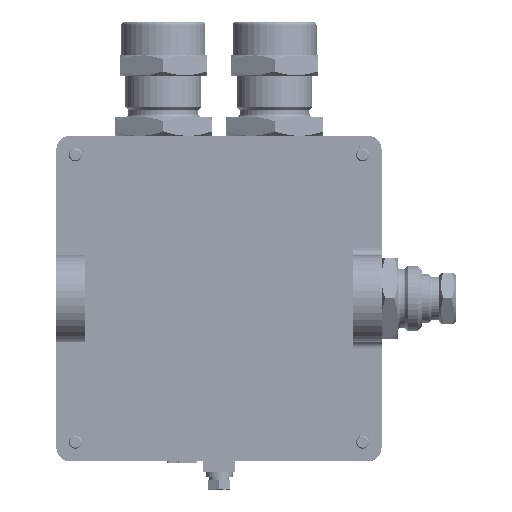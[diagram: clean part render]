
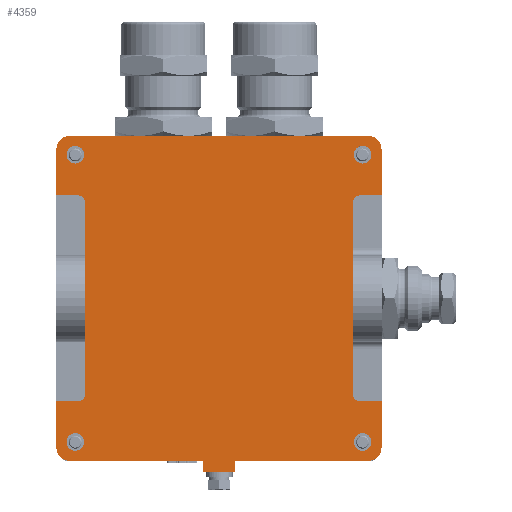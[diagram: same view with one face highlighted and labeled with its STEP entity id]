
A CAD part, top view. The second image highlights one B-rep face of the part: STEP entity #4359.
In plain terms, the highlighted planar face has unit normal (0, 0, 1) as drawn and (0, 0, -1) by its records, which use the part's own axes.
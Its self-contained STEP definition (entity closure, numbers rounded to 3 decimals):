
#4359=ADVANCED_FACE('',(#21949,#21951,#21953,#21955,#21957),#21959,.F.);
#21949=FACE_BOUND('',#21950,.T.);
#21950=EDGE_LOOP('',(#123872,#123873,#123874,#123875,#123876,#123877,#123878,#123879,
#123880,#123881,#123882,#123883,#123884,#123885,#123886,#123887,#123888,#123889,
#123890,#123891,#123892,#123893,#123894,#123895));
#21951=FACE_BOUND('',#21952,.T.);
#21952=EDGE_LOOP('',(#123896));
#21953=FACE_BOUND('',#21954,.T.);
#21954=EDGE_LOOP('',(#123897));
#21955=FACE_BOUND('',#21956,.T.);
#21956=EDGE_LOOP('',(#123898));
#21957=FACE_BOUND('',#21958,.T.);
#21958=EDGE_LOOP('',(#123899));
#21959=PLANE('',#21960);
#21960=AXIS2_PLACEMENT_3D('',#21961,#21962,#21963);
#21961=CARTESIAN_POINT('',(0.,0.,0.));
#21962=DIRECTION('',(0.,0.,1.));
#21963=DIRECTION('',(1.,0.,0.));
#123872=ORIENTED_EDGE('',*,*,#205849,.T.);
#123873=ORIENTED_EDGE('',*,*,#205756,.T.);
#123874=ORIENTED_EDGE('',*,*,#205847,.T.);
#123875=ORIENTED_EDGE('',*,*,#205850,.T.);
#123876=ORIENTED_EDGE('',*,*,#205851,.F.);
#123877=ORIENTED_EDGE('',*,*,#205852,.F.);
#123878=ORIENTED_EDGE('',*,*,#205811,.F.);
#123879=ORIENTED_EDGE('',*,*,#205853,.F.);
#123880=ORIENTED_EDGE('',*,*,#205854,.F.);
#123881=ORIENTED_EDGE('',*,*,#205855,.T.);
#123882=ORIENTED_EDGE('',*,*,#205856,.T.);
#123883=ORIENTED_EDGE('',*,*,#205857,.T.);
#123884=ORIENTED_EDGE('',*,*,#205858,.T.);
#123885=ORIENTED_EDGE('',*,*,#205859,.T.);
#123886=ORIENTED_EDGE('',*,*,#205860,.F.);
#123887=ORIENTED_EDGE('',*,*,#205861,.F.);
#123888=ORIENTED_EDGE('',*,*,#205768,.F.);
#123889=ORIENTED_EDGE('',*,*,#205862,.T.);
#123890=ORIENTED_EDGE('',*,*,#205863,.F.);
#123891=ORIENTED_EDGE('',*,*,#205864,.F.);
#123892=ORIENTED_EDGE('',*,*,#205776,.F.);
#123893=ORIENTED_EDGE('',*,*,#205865,.F.);
#123894=ORIENTED_EDGE('',*,*,#205866,.F.);
#123895=ORIENTED_EDGE('',*,*,#205867,.T.);
#123896=ORIENTED_EDGE('',*,*,#205868,.T.);
#123897=ORIENTED_EDGE('',*,*,#205869,.T.);
#123898=ORIENTED_EDGE('',*,*,#205870,.T.);
#123899=ORIENTED_EDGE('',*,*,#205871,.T.);
#205756=EDGE_CURVE('',#246614,#246612,#246615,.T.);
#205768=EDGE_CURVE('',#246633,#246635,#246636,.T.);
#205776=EDGE_CURVE('',#246648,#246650,#246651,.T.);
#205811=EDGE_CURVE('',#246714,#246716,#246717,.T.);
#205847=EDGE_CURVE('',#246612,#246775,#246776,.F.);
#205849=EDGE_CURVE('',#246778,#246614,#246779,.F.);
#205850=EDGE_CURVE('',#246775,#246780,#246781,.T.);
#205851=EDGE_CURVE('',#246782,#246780,#246783,.T.);
#205852=EDGE_CURVE('',#246716,#246782,#246784,.T.);
#205853=EDGE_CURVE('',#246785,#246714,#246786,.T.);
#205854=EDGE_CURVE('',#246787,#246785,#246788,.T.);
#205855=EDGE_CURVE('',#246787,#246789,#246790,.T.);
#205856=EDGE_CURVE('',#246789,#246791,#246792,.F.);
#205857=EDGE_CURVE('',#246791,#246793,#246794,.T.);
#205858=EDGE_CURVE('',#246793,#246795,#246796,.F.);
#205859=EDGE_CURVE('',#246795,#246797,#246798,.T.);
#205860=EDGE_CURVE('',#246799,#246797,#246800,.T.);
#205861=EDGE_CURVE('',#246635,#246799,#246801,.T.);
#205862=EDGE_CURVE('',#246633,#246802,#246803,.T.);
#205863=EDGE_CURVE('',#246804,#246802,#246805,.T.);
#205864=EDGE_CURVE('',#246650,#246804,#246806,.T.);
#205865=EDGE_CURVE('',#246807,#246648,#246808,.T.);
#205866=EDGE_CURVE('',#246809,#246807,#246810,.T.);
#205867=EDGE_CURVE('',#246809,#246778,#246811,.T.);
#205868=EDGE_CURVE('',#246812,#246812,#246813,.F.);
#205869=EDGE_CURVE('',#246814,#246814,#246815,.F.);
#205870=EDGE_CURVE('',#246816,#246816,#246817,.F.);
#205871=EDGE_CURVE('',#246818,#246818,#246819,.F.);
#246612=VERTEX_POINT('',#314960);
#246614=VERTEX_POINT('',#314964);
#246615=LINE('',#314965,#314966);
#246633=VERTEX_POINT('',#315007);
#246635=VERTEX_POINT('',#315011);
#246636=LINE('',#315012,#315013);
#246648=VERTEX_POINT('',#315038);
#246650=VERTEX_POINT('',#315042);
#246651=LINE('',#315043,#315044);
#246714=VERTEX_POINT('',#315187);
#246716=VERTEX_POINT('',#315191);
#246717=LINE('',#315192,#315193);
#246775=VERTEX_POINT('',#315336);
#246776=CIRCLE('',#315337,2.5);
#246778=VERTEX_POINT('',#315344);
#246779=CIRCLE('',#315345,2.5);
#246780=VERTEX_POINT('',#315349);
#246781=LINE('',#315350,#315351);
#246782=VERTEX_POINT('',#315353);
#246783=LINE('',#315354,#315355);
#246784=CIRCLE('',#315357,5.);
#246785=VERTEX_POINT('',#315361);
#246786=CIRCLE('',#315362,5.);
#246787=VERTEX_POINT('',#315366);
#246788=LINE('',#315367,#315368);
#246789=VERTEX_POINT('',#315370);
#246790=LINE('',#315371,#315372);
#246791=VERTEX_POINT('',#315374);
#246792=CIRCLE('',#315375,2.5);
#246793=VERTEX_POINT('',#315379);
#246794=LINE('',#315380,#315381);
#246795=VERTEX_POINT('',#315383);
#246796=CIRCLE('',#315384,2.5);
#246797=VERTEX_POINT('',#315388);
#246798=LINE('',#315389,#315390);
#246799=VERTEX_POINT('',#315392);
#246800=LINE('',#315393,#315394);
#246801=CIRCLE('',#315396,5.);
#246802=VERTEX_POINT('',#315400);
#246803=LINE('',#315401,#315402);
#246804=VERTEX_POINT('',#315404);
#246805=LINE('',#315405,#315406);
#246806=LINE('',#315408,#315409);
#246807=VERTEX_POINT('',#315411);
#246808=CIRCLE('',#315412,5.);
#246809=VERTEX_POINT('',#315416);
#246810=LINE('',#315417,#315418);
#246811=LINE('',#315420,#315421);
#246812=VERTEX_POINT('',#315423);
#246813=CIRCLE('',#315424,3.25);
#246814=VERTEX_POINT('',#315428);
#246815=CIRCLE('',#315429,3.25);
#246816=VERTEX_POINT('',#315433);
#246817=CIRCLE('',#315434,3.25);
#246818=VERTEX_POINT('',#315438);
#246819=CIRCLE('',#315439,3.25);
#314960=CARTESIAN_POINT('',(49.5,-35.5,0.));
#314964=CARTESIAN_POINT('',(49.5,35.5,0.));
#314965=CARTESIAN_POINT('',(49.5,35.5,0.));
#314966=VECTOR('',#314967,1.);
#314967=DIRECTION('',(0.,-1.,0.));
#315007=CARTESIAN_POINT('',(-6.,60.,0.));
#315011=CARTESIAN_POINT('',(-55.,60.,0.));
#315012=CARTESIAN_POINT('',(-6.,60.,0.));
#315013=VECTOR('',#315014,1.);
#315014=DIRECTION('',(-1.,0.,0.));
#315038=CARTESIAN_POINT('',(55.,60.,0.));
#315042=CARTESIAN_POINT('',(6.,60.,0.));
#315043=CARTESIAN_POINT('',(55.,60.,0.));
#315044=VECTOR('',#315045,1.);
#315045=DIRECTION('',(-1.,0.,0.));
#315187=CARTESIAN_POINT('',(-55.,-60.,0.));
#315191=CARTESIAN_POINT('',(55.,-60.,0.));
#315192=CARTESIAN_POINT('',(-55.,-60.,0.));
#315193=VECTOR('',#315194,1.);
#315194=DIRECTION('',(1.,0.,0.));
#315336=CARTESIAN_POINT('',(52.,-38.,0.));
#315337=AXIS2_PLACEMENT_3D('',#315338,#315339,#315340);
#315338=CARTESIAN_POINT('',(52.,-35.5,0.));
#315339=DIRECTION('',(0.,0.,-1.));
#315340=DIRECTION('',(0.,-1.,0.));
#315344=CARTESIAN_POINT('',(52.,38.,0.));
#315345=AXIS2_PLACEMENT_3D('',#315346,#315347,#315348);
#315346=CARTESIAN_POINT('',(52.,35.5,0.));
#315347=DIRECTION('',(0.,0.,-1.));
#315348=DIRECTION('',(-1.,0.,0.));
#315349=CARTESIAN_POINT('',(60.,-38.,0.));
#315350=CARTESIAN_POINT('',(52.,-38.,0.));
#315351=VECTOR('',#315352,1.);
#315352=DIRECTION('',(1.,0.,0.));
#315353=CARTESIAN_POINT('',(60.,-55.,0.));
#315354=CARTESIAN_POINT('',(60.,-55.,0.));
#315355=VECTOR('',#315356,1.);
#315356=DIRECTION('',(0.,1.,0.));
#315357=AXIS2_PLACEMENT_3D('',#315358,#315359,#315360);
#315358=CARTESIAN_POINT('',(55.,-55.,0.));
#315359=DIRECTION('',(0.,0.,1.));
#315360=DIRECTION('',(0.,-1.,0.));
#315361=CARTESIAN_POINT('',(-60.,-55.,0.));
#315362=AXIS2_PLACEMENT_3D('',#315363,#315364,#315365);
#315363=CARTESIAN_POINT('',(-55.,-55.,0.));
#315364=DIRECTION('',(0.,0.,1.));
#315365=DIRECTION('',(-1.,0.,0.));
#315366=CARTESIAN_POINT('',(-60.,-38.,0.));
#315367=CARTESIAN_POINT('',(-60.,-38.,0.));
#315368=VECTOR('',#315369,1.);
#315369=DIRECTION('',(0.,-1.,0.));
#315370=CARTESIAN_POINT('',(-52.,-38.,0.));
#315371=CARTESIAN_POINT('',(-60.,-38.,0.));
#315372=VECTOR('',#315373,1.);
#315373=DIRECTION('',(1.,0.,0.));
#315374=CARTESIAN_POINT('',(-49.5,-35.5,0.));
#315375=AXIS2_PLACEMENT_3D('',#315376,#315377,#315378);
#315376=CARTESIAN_POINT('',(-52.,-35.5,0.));
#315377=DIRECTION('',(0.,0.,-1.));
#315378=DIRECTION('',(1.,0.,0.));
#315379=CARTESIAN_POINT('',(-49.5,35.5,0.));
#315380=CARTESIAN_POINT('',(-49.5,-35.5,0.));
#315381=VECTOR('',#315382,1.);
#315382=DIRECTION('',(0.,1.,0.));
#315383=CARTESIAN_POINT('',(-52.,38.,0.));
#315384=AXIS2_PLACEMENT_3D('',#315385,#315386,#315387);
#315385=CARTESIAN_POINT('',(-52.,35.5,0.));
#315386=DIRECTION('',(0.,0.,-1.));
#315387=DIRECTION('',(0.,1.,0.));
#315388=CARTESIAN_POINT('',(-60.,38.,0.));
#315389=CARTESIAN_POINT('',(-52.,38.,0.));
#315390=VECTOR('',#315391,1.);
#315391=DIRECTION('',(-1.,0.,0.));
#315392=CARTESIAN_POINT('',(-60.,55.,0.));
#315393=CARTESIAN_POINT('',(-60.,55.,0.));
#315394=VECTOR('',#315395,1.);
#315395=DIRECTION('',(0.,-1.,0.));
#315396=AXIS2_PLACEMENT_3D('',#315397,#315398,#315399);
#315397=CARTESIAN_POINT('',(-55.,55.,0.));
#315398=DIRECTION('',(0.,0.,1.));
#315399=DIRECTION('',(0.,1.,0.));
#315400=CARTESIAN_POINT('',(-6.,64.,0.));
#315401=CARTESIAN_POINT('',(-6.,60.,0.));
#315402=VECTOR('',#315403,1.);
#315403=DIRECTION('',(0.,1.,0.));
#315404=CARTESIAN_POINT('',(6.,64.,0.));
#315405=CARTESIAN_POINT('',(6.,64.,0.));
#315406=VECTOR('',#315407,1.);
#315407=DIRECTION('',(-1.,0.,0.));
#315408=CARTESIAN_POINT('',(6.,60.,0.));
#315409=VECTOR('',#315410,1.);
#315410=DIRECTION('',(0.,1.,0.));
#315411=CARTESIAN_POINT('',(60.,55.,0.));
#315412=AXIS2_PLACEMENT_3D('',#315413,#315414,#315415);
#315413=CARTESIAN_POINT('',(55.,55.,0.));
#315414=DIRECTION('',(0.,0.,1.));
#315415=DIRECTION('',(1.,0.,0.));
#315416=CARTESIAN_POINT('',(60.,38.,0.));
#315417=CARTESIAN_POINT('',(60.,38.,0.));
#315418=VECTOR('',#315419,1.);
#315419=DIRECTION('',(0.,1.,0.));
#315420=CARTESIAN_POINT('',(60.,38.,0.));
#315421=VECTOR('',#315422,1.);
#315422=DIRECTION('',(-1.,0.,0.));
#315423=CARTESIAN_POINT('',(49.75,53.,0.));
#315424=AXIS2_PLACEMENT_3D('',#315425,#315426,#315427);
#315425=CARTESIAN_POINT('',(53.,53.,0.));
#315426=DIRECTION('',(-0.,-0.,-1.));
#315427=DIRECTION('',(-1.,0.,0.));
#315428=CARTESIAN_POINT('',(-56.25,53.,0.));
#315429=AXIS2_PLACEMENT_3D('',#315430,#315431,#315432);
#315430=CARTESIAN_POINT('',(-53.,53.,0.));
#315431=DIRECTION('',(-0.,-0.,-1.));
#315432=DIRECTION('',(-1.,0.,0.));
#315433=CARTESIAN_POINT('',(49.75,-53.,0.));
#315434=AXIS2_PLACEMENT_3D('',#315435,#315436,#315437);
#315435=CARTESIAN_POINT('',(53.,-53.,0.));
#315436=DIRECTION('',(-0.,-0.,-1.));
#315437=DIRECTION('',(-1.,0.,0.));
#315438=CARTESIAN_POINT('',(-56.25,-53.,0.));
#315439=AXIS2_PLACEMENT_3D('',#315440,#315441,#315442);
#315440=CARTESIAN_POINT('',(-53.,-53.,0.));
#315441=DIRECTION('',(-0.,-0.,-1.));
#315442=DIRECTION('',(-1.,0.,0.));
